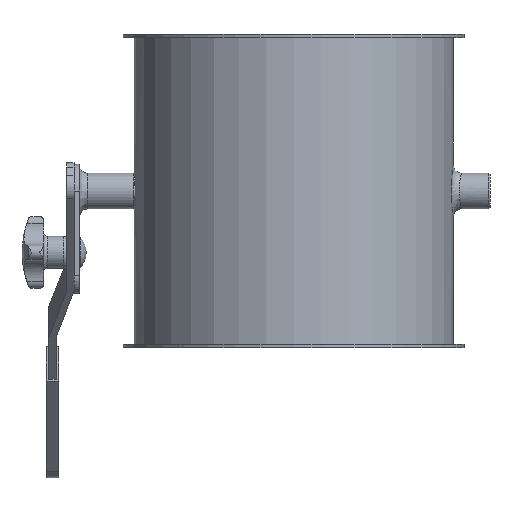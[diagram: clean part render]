
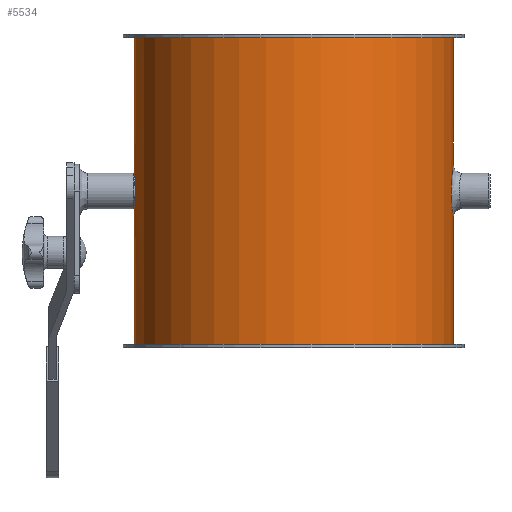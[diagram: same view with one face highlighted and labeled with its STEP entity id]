
A CAD part, front view. The second image highlights one B-rep face of the part: STEP entity #5534.
In plain terms, the highlighted cylindrical face has radius 89 mm (diameter 178 mm), a full revolution.
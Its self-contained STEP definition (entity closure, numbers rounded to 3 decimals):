
#5425=CARTESIAN_POINT('',(87.923,13.802,87.5));
#5426=VERTEX_POINT('',#5425);
#5436=CARTESIAN_POINT('',(87.923,13.802,87.5));
#5437=CARTESIAN_POINT('',(87.923,13.802,87.501));
#5438=CARTESIAN_POINT('',(87.923,13.802,87.502));
#5439=CARTESIAN_POINT('',(87.923,13.802,87.504));
#5440=CARTESIAN_POINT('',(87.923,13.801,89.664));
#5441=CARTESIAN_POINT('',(88.077,12.871,93.979));
#5442=CARTESIAN_POINT('',(88.599,8.912,99.209));
#5443=CARTESIAN_POINT('',(89.016,3.212,102.111));
#5444=CARTESIAN_POINT('',(89.016,-3.174,102.121));
#5445=CARTESIAN_POINT('',(88.604,-8.88,99.23));
#5446=CARTESIAN_POINT('',(88.017,-13.3,93.452));
#5447=CARTESIAN_POINT('',(87.845,-14.271,86.717));
#5448=CARTESIAN_POINT('',(88.173,-12.216,79.709));
#5449=CARTESIAN_POINT('',(88.67,-8.316,75.297));
#5450=CARTESIAN_POINT('',(89.016,-2.479,72.885));
#5451=CARTESIAN_POINT('',(89.017,3.174,72.88));
#5452=CARTESIAN_POINT('',(88.601,8.899,75.775));
#5453=CARTESIAN_POINT('',(88.167,12.196,80.124));
#5454=CARTESIAN_POINT('',(87.961,13.566,84.235));
#5455=CARTESIAN_POINT('',(87.923,13.802,86.421));
#5456=CARTESIAN_POINT('',(87.923,13.802,87.5));
#5457=B_SPLINE_CURVE_WITH_KNOTS('',3,(#5436,#5437,#5438,#5439,#5440,#5441,#5442,#5443,#5444,#5445,#5446,#5447,#5448,#5449,#5450,#5451,#5452,#5453,#5454,#5455,#5456),.UNSPECIFIED.,.T.,.U.,(4,3,1,1,1,1,1,1,1,1,1,1,1,1,1,1,4),(-6.033,-6.032,-5.602,-5.171,-4.74,-4.309,-3.878,-3.447,-2.873,-2.585,-2.011,-1.724,-1.293,-0.862,-0.431,-0.215,0.),.UNSPECIFIED.);
#5458=EDGE_CURVE('',#5426,#5426,#5457,.T.);
#5463=CARTESIAN_POINT('',(0.0,0.0,0.0));
#5464=DIRECTION('',(0.0,0.0,1.0));
#5465=DIRECTION('',(-1.0,0.0,0.0));
#5466=AXIS2_PLACEMENT_3D('',#5463,#5464,#5465);
#5467=CYLINDRICAL_SURFACE('',#5466,89.0);
#5468=CARTESIAN_POINT('',(89.0,0.,173.0));
#5469=VERTEX_POINT('',#5468);
#5470=CARTESIAN_POINT('',(0.0,0.0,173.0));
#5471=DIRECTION('',(0.0,0.0,-1.0));
#5472=DIRECTION('',(-1.0,0.0,0.0));
#5473=AXIS2_PLACEMENT_3D('',#5470,#5471,#5472);
#5474=CIRCLE('',#5473,89.0);
#5475=EDGE_CURVE('',#5469,#5469,#5474,.T.);
#5476=ORIENTED_EDGE('',*,*,#5475,.T.);
#5477=EDGE_LOOP('',(#5476));
#5478=FACE_OUTER_BOUND('',#5477,.T.);
#5479=CARTESIAN_POINT('',(-89.0,0.,2.0));
#5480=VERTEX_POINT('',#5479);
#5481=CARTESIAN_POINT('',(0.0,0.0,2.0));
#5482=DIRECTION('',(0.0,0.0,1.0));
#5483=DIRECTION('',(-1.0,0.0,0.0));
#5484=AXIS2_PLACEMENT_3D('',#5481,#5482,#5483);
#5485=CIRCLE('',#5484,89.0);
#5486=EDGE_CURVE('',#5480,#5480,#5485,.T.);
#5487=ORIENTED_EDGE('',*,*,#5486,.T.);
#5488=EDGE_LOOP('',(#5487));
#5489=FACE_BOUND('',#5488,.T.);
#5490=CARTESIAN_POINT('',(-88.436,10.0,87.5));
#5491=VERTEX_POINT('',#5490);
#5492=CARTESIAN_POINT('',(-88.436,10.0,87.5));
#5493=CARTESIAN_POINT('',(-88.436,10.0,88.757));
#5494=CARTESIAN_POINT('',(-88.466,9.749,90.097));
#5495=CARTESIAN_POINT('',(-88.573,8.728,92.56));
#5496=CARTESIAN_POINT('',(-88.648,7.958,93.684));
#5497=CARTESIAN_POINT('',(-88.789,6.184,95.458));
#5498=CARTESIAN_POINT('',(-88.865,5.06,96.228));
#5499=CARTESIAN_POINT('',(-88.971,2.597,97.249));
#5500=CARTESIAN_POINT('',(-89.0,1.257,97.5));
#5501=CARTESIAN_POINT('',(-89.0,-1.257,97.5));
#5502=CARTESIAN_POINT('',(-88.971,-2.597,97.249));
#5503=CARTESIAN_POINT('',(-88.865,-5.06,96.228));
#5504=CARTESIAN_POINT('',(-88.789,-6.184,95.458));
#5505=CARTESIAN_POINT('',(-88.648,-7.958,93.684));
#5506=CARTESIAN_POINT('',(-88.573,-8.728,92.56));
#5507=CARTESIAN_POINT('',(-88.466,-9.749,90.097));
#5508=CARTESIAN_POINT('',(-88.436,-10.0,88.757));
#5509=CARTESIAN_POINT('',(-88.436,-10.0,86.243));
#5510=CARTESIAN_POINT('',(-88.466,-9.749,84.903));
#5511=CARTESIAN_POINT('',(-88.573,-8.728,82.44));
#5512=CARTESIAN_POINT('',(-88.648,-7.958,81.316));
#5513=CARTESIAN_POINT('',(-88.789,-6.184,79.542));
#5514=CARTESIAN_POINT('',(-88.865,-5.06,78.772));
#5515=CARTESIAN_POINT('',(-88.971,-2.597,77.751));
#5516=CARTESIAN_POINT('',(-89.0,-1.257,77.5));
#5517=CARTESIAN_POINT('',(-89.0,1.257,77.5));
#5518=CARTESIAN_POINT('',(-88.971,2.597,77.751));
#5519=CARTESIAN_POINT('',(-88.865,5.06,78.772));
#5520=CARTESIAN_POINT('',(-88.789,6.184,79.542));
#5521=CARTESIAN_POINT('',(-88.648,7.958,81.316));
#5522=CARTESIAN_POINT('',(-88.573,8.728,82.44));
#5523=CARTESIAN_POINT('',(-88.466,9.749,84.903));
#5524=CARTESIAN_POINT('',(-88.436,10.,86.243));
#5525=CARTESIAN_POINT('',(-88.436,10.,87.5));
#5526=B_SPLINE_CURVE_WITH_KNOTS('',3,(#5492,#5493,#5494,#5495,#5496,#5497,#5498,#5499,#5500,#5501,#5502,#5503,#5504,#5505,#5506,#5507,#5508,#5509,#5510,#5511,#5512,#5513,#5514,#5515,#5516,#5517,#5518,#5519,#5520,#5521,#5522,#5523,#5524,#5525),.UNSPECIFIED.,.T.,.U.,(4,2,2,2,2,2,2,2,2,2,2,2,2,2,2,2,4),(0.0,0.377,0.754,1.131,1.508,1.885,2.262,2.639,3.016,3.393,3.77,4.147,4.524,4.901,5.278,5.655,6.032),.UNSPECIFIED.);
#5527=EDGE_CURVE('',#5491,#5491,#5526,.T.);
#5528=ORIENTED_EDGE('',*,*,#5527,.T.);
#5529=EDGE_LOOP('',(#5528));
#5530=FACE_BOUND('',#5529,.T.);
#5531=ORIENTED_EDGE('',*,*,#5458,.F.);
#5532=EDGE_LOOP('',(#5531));
#5533=FACE_BOUND('',#5532,.T.);
#5534=ADVANCED_FACE('',(#5478,#5489,#5530,#5533),#5467,.T.);
